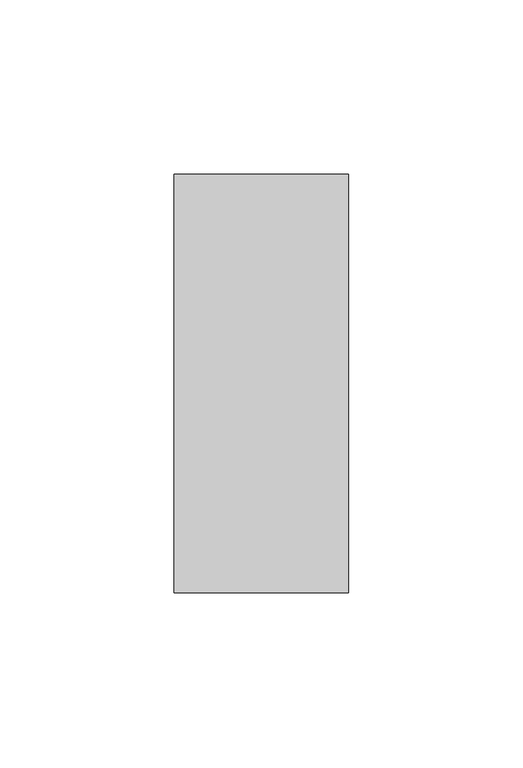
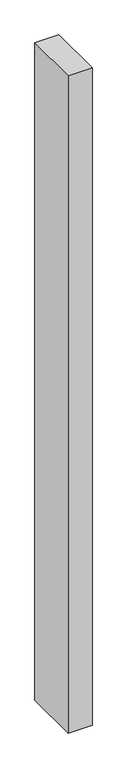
"""IFC4 building model written with IfcOpenShell, lengths in millimetres: member geometry, Прямоугольный импост : 50х120 мм."""

from ifc_helpers import new_model, si_unit, frame, origin, place, context, project, spatial, polyline, outline, extrude, source, transform, mapped, element, save


def member_849f455b(model_context):
    return source(origin(), model_context, "Body", "SweptSolid", [
        extrude(outline(polyline([(25.0, 60.0), (25.0, -60.0), (-25.0, -60.0), (-25.0, 60.0), (25.0, 60.0)])), frame((0.0, 0.0, -1450.0), z_axis=(0.0, 0.0, 1.0), x_axis=(1.0, 0.0, 0.0)), (0.0, 0.0, 1.0), 1450.0),
    ])


if __name__ == "__main__":
    model = new_model("IFC4")
    model_context = context("Model", 3, world=origin())
    ifc_project = project(units=[si_unit("LENGTHUNIT", "METRE", prefix="MILLI")], contexts=[model_context])
    site = spatial("IfcSite", under=ifc_project)
    building = spatial("IfcBuilding", under=site)
    placement = place(None, origin())
    member_shape = member_849f455b(model_context)
    element("IfcMember", 1, ObjectType="Прямоугольный импост : 50х120 мм", at=placement, inside=building, context=model_context, shape_type="MappedRepresentation", body=[
        mapped(member_shape, transform((0.0, 0.0, 0.0), x_axis=(1.0, 0.0, 0.0), y_axis=(0.0, 1.0, 0.0), z_axis=(0.0, 0.0, 1.0))),
    ])
    save(model, "model.ifc")
